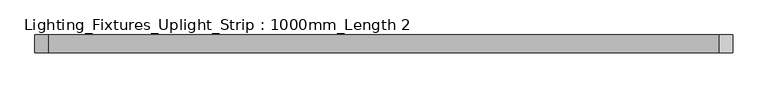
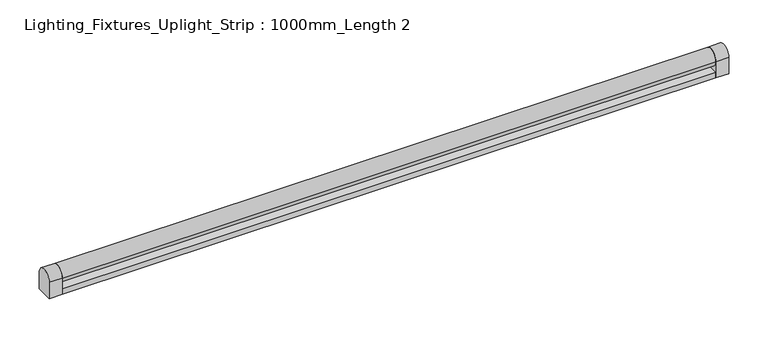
"""IFC4 building model written with IfcOpenShell, lengths in millimetres: light fixture geometry, Lighting_Fixtures_Uplight_Strip : 1000mm_Length 2."""

from ifc_helpers import new_model, si_unit, point, frame, frame_2d, origin, place, context, project, spatial, polyline, circle_curve, trimmed, segment, composite_curve, outline, extrude, source, transform, mapped, element, save


def lighting_fixtures_uplight_strip_1000mm_length_2_8e9ee43d(model_context):
    return source(origin(), model_context, "Body", "SweptSolid", [
        extrude(outline(composite_curve([segment(polyline([(12.7, 2003.1905445), (-12.7, 2003.1905445), (-12.7, 2028.5905445)]), True, "CONTINUOUS"), segment(trimmed(circle_curve(frame_2d((0.0, 2028.5905445)), 12.7), [point((-12.7, 2028.5905445))], [point((12.7, 2028.5905445))], False, "CARTESIAN"), True, "CONTINUOUS"), segment(polyline([(12.7, 2028.5905445), (12.7, 2003.1905445)]), True, "CONTINUOUS")], self_intersect=False)), frame((480.95, 0.0, 0.0), z_axis=(1.0, 0.0, 0.0), x_axis=(0.0, 1.0, 0.0)), (0.0, 0.0, 1.0), 19.05),
        extrude(outline(composite_curve([segment(polyline([(-12.7, 2003.1905445), (-12.7, 2028.5905445)]), True, "CONTINUOUS"), segment(trimmed(circle_curve(frame_2d((0.0, 2028.5905445)), 12.7), [point((-12.7, 2028.5905445))], [point((12.7, 2028.5905445))], False, "CARTESIAN"), True, "CONTINUOUS"), segment(polyline([(12.7, 2028.5905445), (12.7, 2003.1905445), (-12.7, 2003.1905445)]), True, "CONTINUOUS")], self_intersect=False)), frame((-500.0, 0.0, 0.0), z_axis=(1.0, 0.0, 0.0), x_axis=(0.0, 1.0, 0.0)), (0.0, 0.0, 1.0), 19.05),
        extrude(outline(composite_curve([segment(trimmed(circle_curve(frame_2d((0.0, 2028.5905445)), 12.7), [point((-12.7, 2028.5905445))], [point((12.7, 2028.5905445))], False, "CARTESIAN"), True, "CONTINUOUS"), segment(trimmed(circle_curve(frame_2d((0.0, 2028.5905445)), 12.7), [point((12.7, 2028.5905445))], [point((-12.7, 2028.5905445))], False, "CARTESIAN"), True, "CONTINUOUS")], self_intersect=False)), frame((-480.95, 0.0, 0.0), z_axis=(1.0, 0.0, 0.0), x_axis=(0.0, 1.0, 0.0)), (0.0, 0.0, 1.0), 961.9),
        extrude(outline(polyline([(480.95, 12.7), (480.95, -12.7), (-480.95, -12.7), (-480.95, 12.7), (480.95, 12.7)])), frame((0.0, 0.0, 2003.1905445), z_axis=(0.0, 0.0, 1.0), x_axis=(1.0, 0.0, 0.0)), (0.0, 0.0, 1.0), 8.6688764),
    ])


if __name__ == "__main__":
    model = new_model("IFC4")
    model_context = context("Model", 3, world=origin())
    ifc_project = project(units=[si_unit("LENGTHUNIT", "METRE", prefix="MILLI")], contexts=[model_context])
    site = spatial("IfcSite", under=ifc_project)
    building = spatial("IfcBuilding", under=site)
    placement = place(None, origin())
    lighting_fixtures_uplight_strip_1000mm_length_2_shape = lighting_fixtures_uplight_strip_1000mm_length_2_8e9ee43d(model_context)
    element("IfcLightFixture", 1, ObjectType="Lighting_Fixtures_Uplight_Strip : 1000mm_Length 2", at=placement, inside=building, context=model_context, shape_type="MappedRepresentation", body=[
        mapped(lighting_fixtures_uplight_strip_1000mm_length_2_shape, transform((0.0, 0.0, 0.0), x_axis=(1.0, 0.0, 0.0), y_axis=(0.0, 1.0, 0.0), z_axis=(0.0, 0.0, 1.0))),
    ])
    save(model, "model.ifc")
